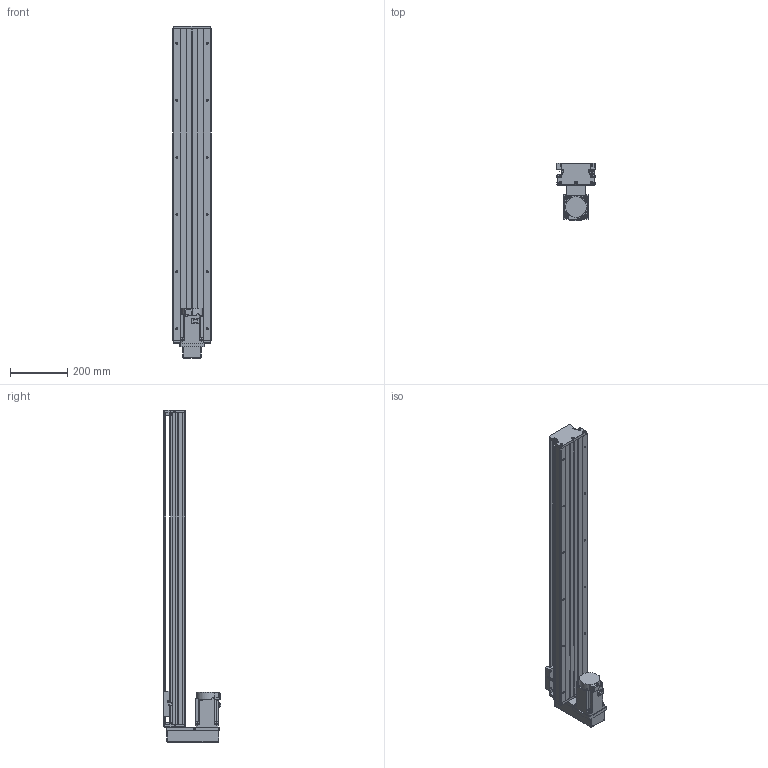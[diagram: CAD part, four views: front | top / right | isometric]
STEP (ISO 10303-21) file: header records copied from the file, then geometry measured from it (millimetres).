
FILE_DESCRIPTION (( 'STEP AP203' ), '1' );
FILE_NAME ('KTH130-950-BM-M75-C4.step', '2023-06-30T04:39:15', ( '微软用户' ), ( '微软中国' ), 'SwSTEP 2.0', 'SolidWorks 2020', '' );
FILE_SCHEMA (( 'CONFIG_CONTROL_DESIGN' ));
Length unit declared in the file: millimetre
Products named in the file (18): GBT70.1 M5℅16; す晦芛蹟隊 M3℅5; GBT 70.2-M3¡Á5_M3¡Á6; GBT 70.3-M3℅8; GTH14-001_950; CTHA60-017; hg-kn73j_-s100; KTH130-002_KTH130-002; EE_SX911P_R; CTHA86-015-3_CTHA86-015-4; KTH130-004; CTHA60-016; CTHA86-035; KTH130-005; GBT 70.1-M3℅5; KTH130-950-BM-M75-C4; GB1155-6X6; GBT77-2000 M3×3
Assembly tree (49 placements, depth 2):
  KTH130-950-BM-M75-C4
    GTH14-001_950
    KTH130-002_KTH130-002
    KTH130-004
    KTH130-005
    GB1155-6X6  x2
    GBT70.1 M5℅16  x10
    GBT 70.2-M3¡Á5_M3¡Á6  x4
    CTHA60-017  x3
    EE_SX911P_R  x3
    CTHA60-016  x2
    GBT 70.1-M3℅5  x6
    GBT77-2000 M3×3  x6
    す晦芛蹟隊 M3℅5  x2
    GBT 70.3-M3℅8  x4
    hg-kn73j_-s100
    CTHA86-015-3_CTHA86-015-4
    CTHA86-035
Bounding box: 135 x 202.8 x 1162 mm (x, y, z)
Volume: 7256596.4 mm3; surface area: 1040668.6 mm2
Topology: 52 solids, 52 shells, 2202 faces, 5340 edges, 3343 vertices
Faces by surface type: plane 1210, cylinder 638, cone 238, torus 100, sphere 16
Entity records: 40253 total; most frequent: CARTESIAN_POINT 6772, DIRECTION 6637, ORIENTED_EDGE 6184, EDGE_CURVE 3092, AXIS2_PLACEMENT_3D 2326, VECTOR 1985, LINE 1985, VERTEX_POINT 1977
